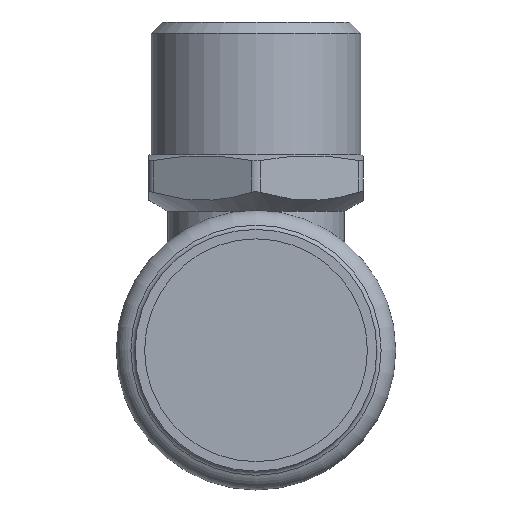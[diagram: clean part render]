
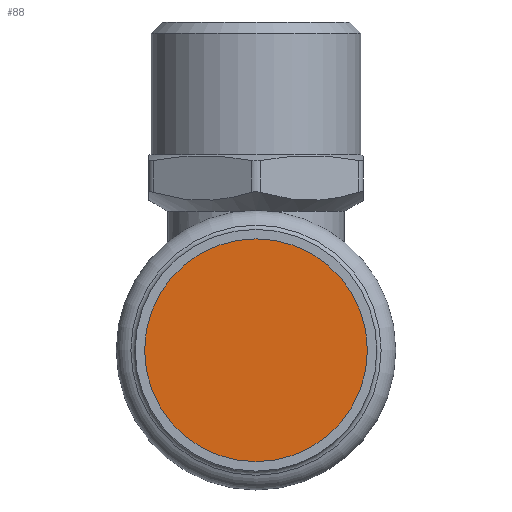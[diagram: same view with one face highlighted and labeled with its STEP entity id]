
A CAD part, front view. The second image highlights one B-rep face of the part: STEP entity #88.
In plain terms, the highlighted planar face has unit normal (0, -1, 0).
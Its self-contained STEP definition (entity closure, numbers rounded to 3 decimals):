
#88=ADVANCED_FACE('',(#381),#383,.T.);
#381=FACE_BOUND('',#382,.T.);
#382=EDGE_LOOP('',(#519));
#383=PLANE('',#384);
#384=AXIS2_PLACEMENT_3D('',#385,#386,#387);
#385=CARTESIAN_POINT('',(0.,-48.743,0.));
#386=DIRECTION('',(0.,-1.,0.));
#387=DIRECTION('',(0.,0.,-1.));
#519=ORIENTED_EDGE('',*,*,#582,.T.);
#582=EDGE_CURVE('',#694,#694,#695,.F.);
#694=VERTEX_POINT('',#2027);
#695=CIRCLE('',#2028,17.65);
#2027=CARTESIAN_POINT('',(0.,-48.743,17.65));
#2028=AXIS2_PLACEMENT_3D('',#2029,#2030,#2031);
#2029=CARTESIAN_POINT('',(0.,-48.743,0.));
#2030=DIRECTION('',(0.,1.,0.));
#2031=DIRECTION('',(0.,0.,1.));
